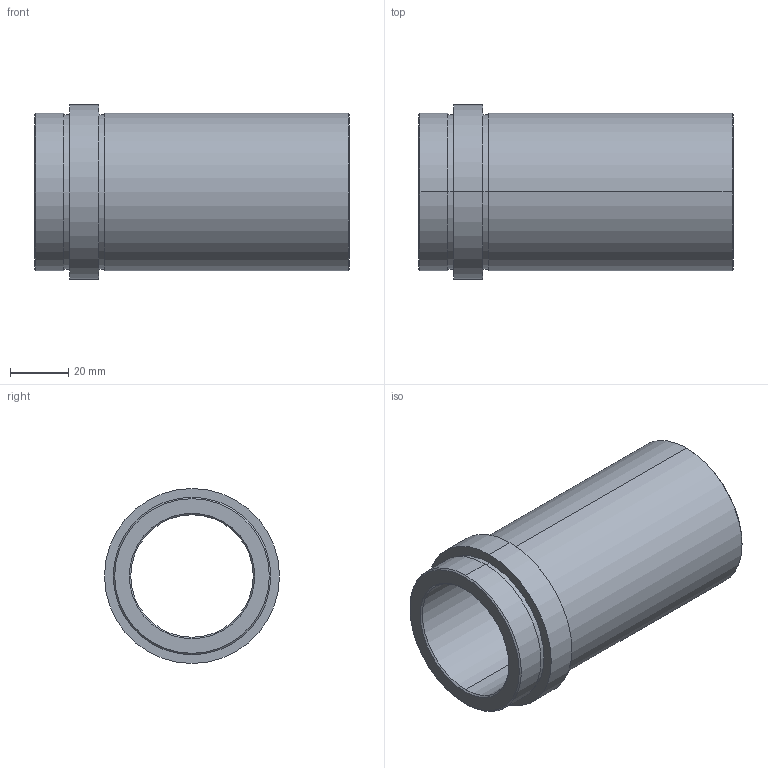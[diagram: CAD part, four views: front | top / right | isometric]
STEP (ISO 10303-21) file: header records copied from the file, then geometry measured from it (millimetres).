
FILE_DESCRIPTION( ( 'STEP AP203' ), '1' );
FILE_NAME( 'C:/Projects/D21 - 42x96.step', '2002-12-31T23:02:18', ( ' ' ), ( ' ' ), 'XStep 1.0', ' ', ' ' );
FILE_SCHEMA( ( 'CONFIG_CONTROL_DESIGN' ) );
Length unit declared in the file: metre
Products named in the file (1): 1
Bounding box: 108 x 60 x 60 mm (x, y, z)
Volume: 102676.7 mm3; surface area: 35791.4 mm2
Topology: 1 solids, 1 shells, 26 faces, 52 edges, 32 vertices
Faces by surface type: revolution 20, bspline 6
Entity records: 773 total; most frequent: CARTESIAN_POINT 169, DIRECTION 106, ORIENTED_EDGE 104, EDGE_CURVE 52, AXIS2_PLACEMENT_3D 33, EDGE_LOOP 32, VERTEX_POINT 32, CIRCLE 32
